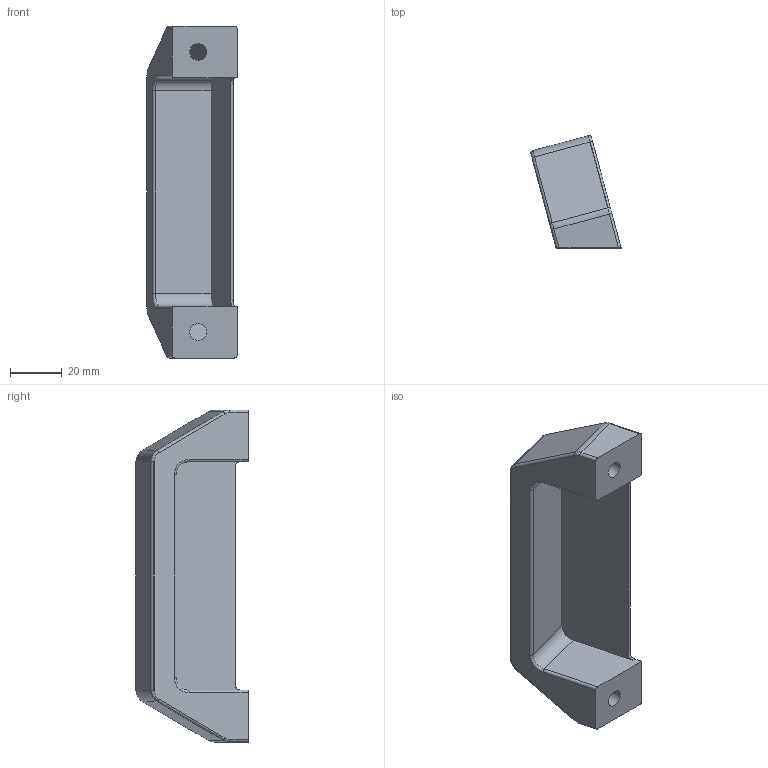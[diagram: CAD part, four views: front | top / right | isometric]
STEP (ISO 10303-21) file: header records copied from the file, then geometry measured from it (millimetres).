
FILE_DESCRIPTION (( 'STEP AP203' ), '1' );
FILE_NAME ('084.505.002.STEP', '2018-03-09T14:09:36', ( '' ), ( '' ), 'SwSTEP 2.0', 'SolidWorks 2016', '' );
FILE_SCHEMA (( 'CONFIG_CONTROL_DESIGN' ));
Length unit declared in the file: millimetre
Products named in the file (1): 084.505.002
Bounding box: 34.76 x 43.27 x 128 mm (x, y, z)
Volume: 37918.4 mm3; surface area: 26020.5 mm2
Topology: 1 solids, 1 shells, 70 faces, 178 edges, 112 vertices
Faces by surface type: cylinder 34, plane 26, torus 10
Entity records: 2189 total; most frequent: CARTESIAN_POINT 397, DIRECTION 374, ORIENTED_EDGE 356, EDGE_CURVE 178, AXIS2_PLACEMENT_3D 137, VERTEX_POINT 112, VECTOR 100, LINE 100
